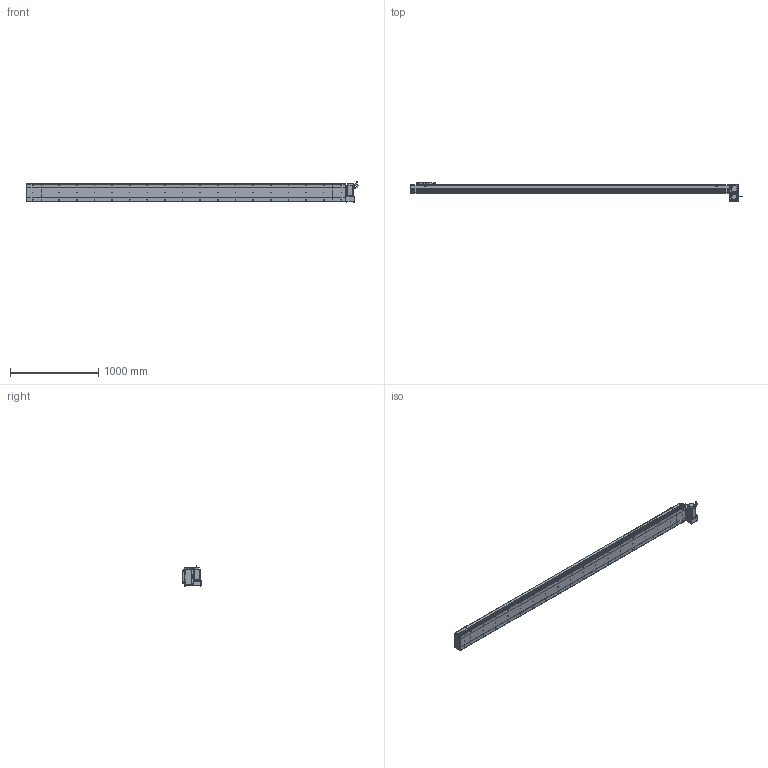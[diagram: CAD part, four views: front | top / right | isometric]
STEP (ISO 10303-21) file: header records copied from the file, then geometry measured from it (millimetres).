
FILE_DESCRIPTION (( 'STEP AP214' ), '1' );
FILE_NAME ('D20 CBH RU S3300.STEP', '2010-06-30T10:49:24', ( 'Conseil Régional Haute-Normandie' ), ( 'Conseil Régional Haute-Normandie' ), 'SwSTEP 2.0', 'SolidWorks 2010', '' );
FILE_SCHEMA (( 'AUTOMOTIVE_DESIGN' ));
Length unit declared in the file: millimetre
Products named in the file (31): Rondelle Cache D20 RU_Default; ecrou_Default; avant 90BLDC125A-640; vis M5 L30_Default; Conecteur_Default; Conecteur2_Default; codeur 90BLDC125-640; corps 90BLDC125A-640; vis M5 L47_Default; Moteur motionking 90BLDC125A-640; vis M5 L15_Default; Couvercle_Default; Corp Tail D20+100_Default; Tail D20+100_Default; Plaque de Bout Tail D20_Default; Plaque De Serrage D20_Default; Couvercle S3300_Default; Corp S3300_Default; Corp D20 S3300_Default; Glissiere_Default; Chariot D20_Default; Support Chariot D20_Default; Head RU_Default; D20 CBH RU S3300; Corp Tail D20 RU_Default; Support moteur RU_Default; Plaque de Bout Head D20 RU_Default; Cache Support Moteur RU_Default; Plaque De Serrage D20 RU_Default; Couvercle RU_Default
Assembly tree (66 placements, depth 4):
  D20 CBH RU S3300
    Head RU_Default
      vis M5 L47_Default  x4
      Cache Support Moteur RU_Default
      Moteur motionking 90BLDC125A-640
        Conecteur2_Default
        codeur 90BLDC125-640
        avant 90BLDC125A-640
        Conecteur_Default
        corps 90BLDC125A-640
      vis M5 L15_Default  x12
      ecrou_Default  x4
      Support moteur RU_Default
      Plaque De Serrage D20 RU_Default
      Corp Tail D20 RU_Default
      vis M5 L30_Default  x4
      Rondelle Cache D20 RU_Default  x3
      Couvercle RU_Default
      Plaque de Bout Head D20 RU_Default
    Chariot D20_Default
      vis M5 L15_Default  x8
      Support Chariot D20_Default
      Chariot D20_Default
      Glissiere_Default
    Corp D20 S3300_Default
      Corp S3300_Default
      Couvercle S3300_Default
    Tail D20+100_Default
      vis M5 L15_Default  x6
      Plaque de Bout Tail D20_Default
      Couvercle_Default
      Corp Tail D20+100_Default
      Plaque De Serrage D20_Default
Bounding box: 3764.45 x 209 x 229.7 mm (x, y, z)
Volume: 25135813.3 mm3; surface area: 4817848.1 mm2
Topology: 103 solids, 103 shells, 3835 faces, 9542 edges, 6202 vertices
Faces by surface type: plane 2120, bspline 806, cylinder 746, torus 91, cone 68, sphere 4
Entity records: 161254 total; most frequent: CARTESIAN_POINT 82617, ORIENTED_EDGE 15552, DIRECTION 11970, EDGE_CURVE 7776, VERTEX_POINT 5146, VECTOR 4996, LINE 4996, AXIS2_PLACEMENT_3D 3487
